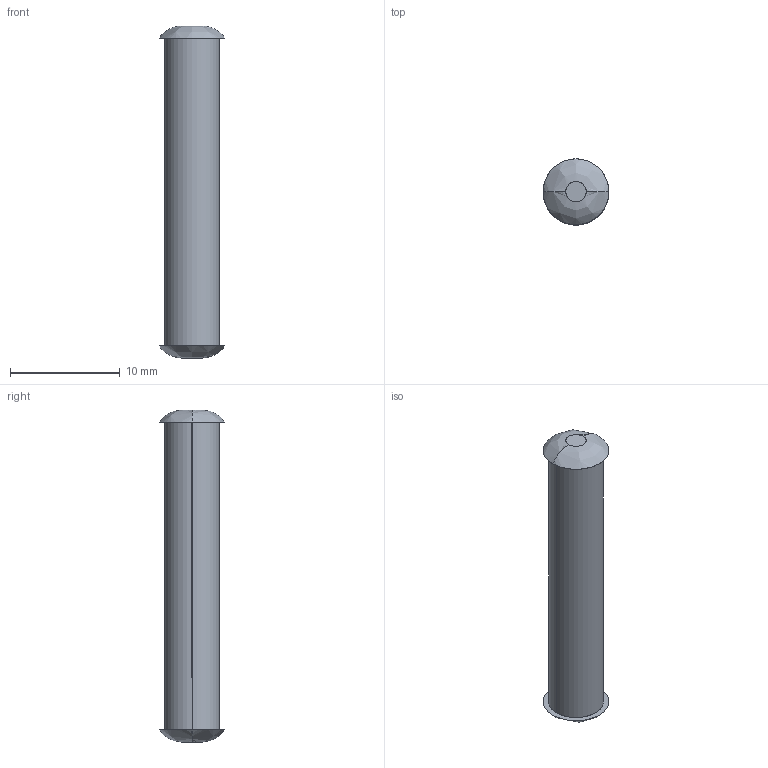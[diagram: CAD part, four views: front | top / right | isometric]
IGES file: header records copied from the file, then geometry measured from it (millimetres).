
Start section: SolidWorks IGES FILE using analytic representation for surfaces
Global section: file name: C:\Documents and Settings\lecoutey\Bureau\GR 96 E\57.040.10.IGS; native system: SolidWorks 2004 by SolidWorks Corporation; preprocessor: Version 5.3; author: lecoutey; date: 050405.092938; units: millimetre
Bounding box: 6 x 6 x 30.3 mm (x, y, z)
Surface area: 527.1 mm2 (no closed solid volume)
Topology: 0 solids, 0 shells, 10 faces, 216 edges, 216 vertices
Faces by surface type: bspline 8, revolution 2
